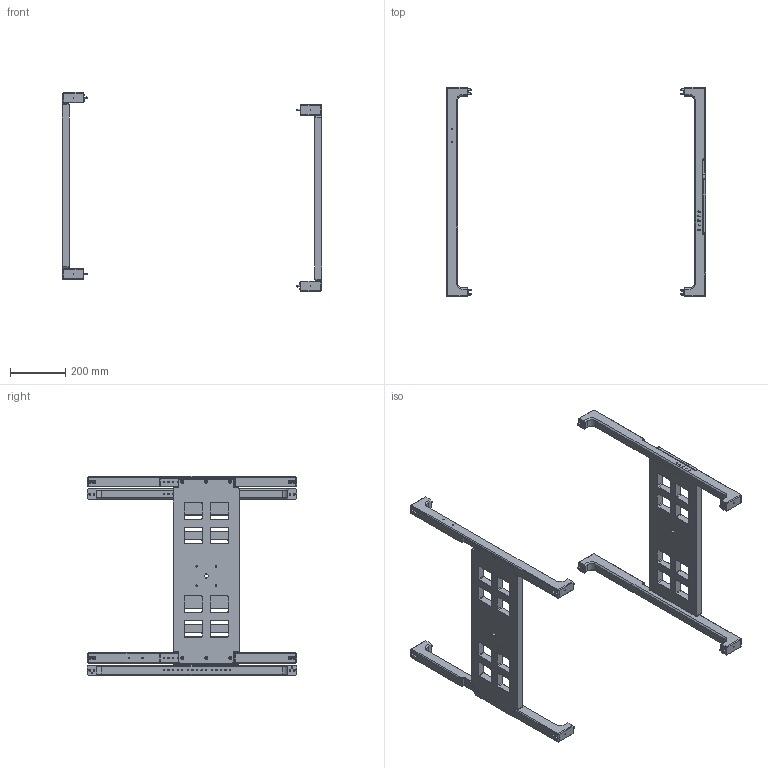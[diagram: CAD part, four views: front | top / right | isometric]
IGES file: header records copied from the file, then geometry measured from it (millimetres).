
Start section:  PTC IGES file: cu_man_brkt_kit-149737-01.igs
Global section: file name: cu_man_brkt_kit-149737-01.igs; native system: Creo Parametric by PTC Inc.; preprocessor: 2021063; author: dkendric; organization: Unknown; date: 20240304.120654; units: millimetre
Bounding box: 942.4 x 759.4 x 722.86 mm (x, y, z)
Surface area: 1228239.7 mm2 (no closed solid volume)
Topology: 0 solids, 0 shells, 1966 faces, 9520 edges, 9500 vertices
Faces by surface type: bspline 1168, revolution 798
